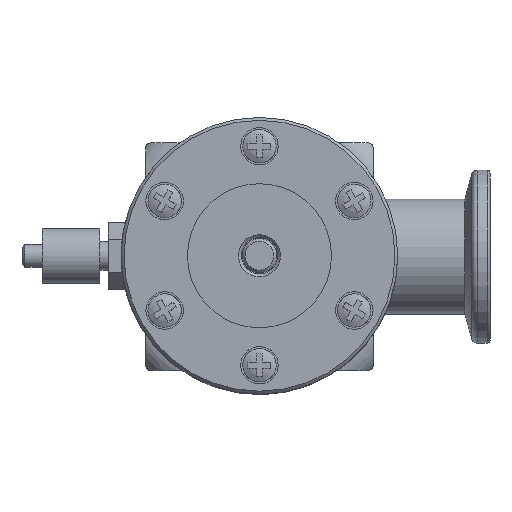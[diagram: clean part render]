
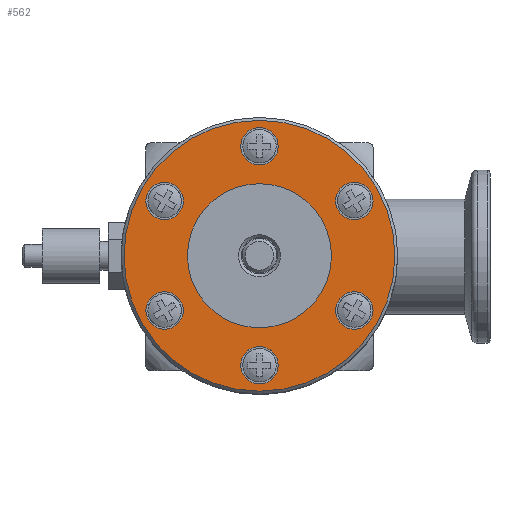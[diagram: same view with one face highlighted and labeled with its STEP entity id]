
A CAD part, top view. The second image highlights one B-rep face of the part: STEP entity #562.
In plain terms, the highlighted planar face has unit normal (0, 0, 1) as drawn and (0, 0, -1) by its records, which use the part's own axes.
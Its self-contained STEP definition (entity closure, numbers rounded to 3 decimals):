
#562 = ADVANCED_FACE( '', ( #1118, #1119, #1120, #1121, #1122, #1123, #1124, #1125 ), #1126, .T. );
#1118 = FACE_OUTER_BOUND( '', #1828, .T. );
#1119 = FACE_BOUND( '', #1829, .T. );
#1120 = FACE_BOUND( '', #1830, .T. );
#1121 = FACE_BOUND( '', #1831, .T. );
#1122 = FACE_BOUND( '', #1832, .T. );
#1123 = FACE_BOUND( '', #1833, .T. );
#1124 = FACE_BOUND( '', #1834, .T. );
#1125 = FACE_BOUND( '', #1835, .T. );
#1126 = PLANE( '', #1836 );
#1828 = EDGE_LOOP( '', ( #2698 ) );
#1829 = EDGE_LOOP( '', ( #2699 ) );
#1830 = EDGE_LOOP( '', ( #2700 ) );
#1831 = EDGE_LOOP( '', ( #2701 ) );
#1832 = EDGE_LOOP( '', ( #2702 ) );
#1833 = EDGE_LOOP( '', ( #2703 ) );
#1834 = EDGE_LOOP( '', ( #2704 ) );
#1835 = EDGE_LOOP( '', ( #2705 ) );
#1836 = AXIS2_PLACEMENT_3D( '', #2706, #2707, #2708 );
#2698 = ORIENTED_EDGE( '', *, *, #3749, .T. );
#2699 = ORIENTED_EDGE( '', *, *, #3830, .T. );
#2700 = ORIENTED_EDGE( '', *, *, #3831, .T. );
#2701 = ORIENTED_EDGE( '', *, *, #3832, .T. );
#2702 = ORIENTED_EDGE( '', *, *, #3833, .T. );
#2703 = ORIENTED_EDGE( '', *, *, #3834, .T. );
#2704 = ORIENTED_EDGE( '', *, *, #3835, .T. );
#2705 = ORIENTED_EDGE( '', *, *, #3836, .T. );
#2706 = CARTESIAN_POINT( '', ( 0., 0., 0. ) );
#2707 = DIRECTION( '', ( 0., 0., -1. ) );
#2708 = DIRECTION( '', ( -1., 0., 0. ) );
#3749 = EDGE_CURVE( '', #4302, #4302, #4303, .T. );
#3830 = EDGE_CURVE( '', #4429, #4429, #4430, .T. );
#3831 = EDGE_CURVE( '', #4431, #4431, #4432, .T. );
#3832 = EDGE_CURVE( '', #4433, #4433, #4434, .T. );
#3833 = EDGE_CURVE( '', #4435, #4435, #4436, .T. );
#3834 = EDGE_CURVE( '', #4437, #4437, #4438, .T. );
#3835 = EDGE_CURVE( '', #4439, #4439, #4440, .T. );
#3836 = EDGE_CURVE( '', #4441, #4441, #4442, .T. );
#4302 = VERTEX_POINT( '', #5351 );
#4303 = CIRCLE( '', #5352, 23.5 );
#4429 = VERTEX_POINT( '', #5645 );
#4430 = CIRCLE( '', #5646, 3.25 );
#4431 = VERTEX_POINT( '', #5647 );
#4432 = CIRCLE( '', #5648, 3.25 );
#4433 = VERTEX_POINT( '', #5649 );
#4434 = CIRCLE( '', #5650, 3.25 );
#4435 = VERTEX_POINT( '', #5651 );
#4436 = CIRCLE( '', #5652, 3.25 );
#4437 = VERTEX_POINT( '', #5653 );
#4438 = CIRCLE( '', #5654, 3.25 );
#4439 = VERTEX_POINT( '', #5655 );
#4440 = CIRCLE( '', #5656, 3.25 );
#4441 = VERTEX_POINT( '', #5657 );
#4442 = CIRCLE( '', #5658, 12.5 );
#5351 = CARTESIAN_POINT( '', ( -23.5, 0., 0. ) );
#5352 = AXIS2_PLACEMENT_3D( '', #6559, #6560, #6561 );
#5645 = CARTESIAN_POINT( '', ( 9.5, -13.204, 0. ) );
#5646 = AXIS2_PLACEMENT_3D( '', #6661, #6662, #6663 );
#5647 = CARTESIAN_POINT( '', ( -9.5, -13.204, 0. ) );
#5648 = AXIS2_PLACEMENT_3D( '', #6664, #6665, #6666 );
#5649 = CARTESIAN_POINT( '', ( -19., 3.25, 0. ) );
#5650 = AXIS2_PLACEMENT_3D( '', #6667, #6668, #6669 );
#5651 = CARTESIAN_POINT( '', ( -9.5, 19.704, 0. ) );
#5652 = AXIS2_PLACEMENT_3D( '', #6670, #6671, #6672 );
#5653 = CARTESIAN_POINT( '', ( 9.5, 19.704, 0. ) );
#5654 = AXIS2_PLACEMENT_3D( '', #6673, #6674, #6675 );
#5655 = CARTESIAN_POINT( '', ( 19., 3.25, 0. ) );
#5656 = AXIS2_PLACEMENT_3D( '', #6676, #6677, #6678 );
#5657 = CARTESIAN_POINT( '', ( 0., 12.5, 0. ) );
#5658 = AXIS2_PLACEMENT_3D( '', #6679, #6680, #6681 );
#6559 = CARTESIAN_POINT( '', ( 0., 0., 0. ) );
#6560 = DIRECTION( '', ( 0., 0., -1. ) );
#6561 = DIRECTION( '', ( -1., 0., 0. ) );
#6661 = CARTESIAN_POINT( '', ( 9.5, -16.454, 0. ) );
#6662 = DIRECTION( '', ( 0., 0., 1. ) );
#6663 = DIRECTION( '', ( 0., 1., 0. ) );
#6664 = CARTESIAN_POINT( '', ( -9.5, -16.454, 0. ) );
#6665 = DIRECTION( '', ( 0., 0., 1. ) );
#6666 = DIRECTION( '', ( 0., 1., 0. ) );
#6667 = CARTESIAN_POINT( '', ( -19., 0., 0. ) );
#6668 = DIRECTION( '', ( 0., 0., 1. ) );
#6669 = DIRECTION( '', ( 0., 1., 0. ) );
#6670 = CARTESIAN_POINT( '', ( -9.5, 16.454, 0. ) );
#6671 = DIRECTION( '', ( 0., 0., 1. ) );
#6672 = DIRECTION( '', ( 0., 1., 0. ) );
#6673 = CARTESIAN_POINT( '', ( 9.5, 16.454, 0. ) );
#6674 = DIRECTION( '', ( 0., 0., 1. ) );
#6675 = DIRECTION( '', ( 0., 1., 0. ) );
#6676 = CARTESIAN_POINT( '', ( 19., 0., 0. ) );
#6677 = DIRECTION( '', ( 0., 0., 1. ) );
#6678 = DIRECTION( '', ( 0., 1., 0. ) );
#6679 = CARTESIAN_POINT( '', ( 0., 0., 0. ) );
#6680 = DIRECTION( '', ( 0., 0., 1. ) );
#6681 = DIRECTION( '', ( 0., 1., 0. ) );
